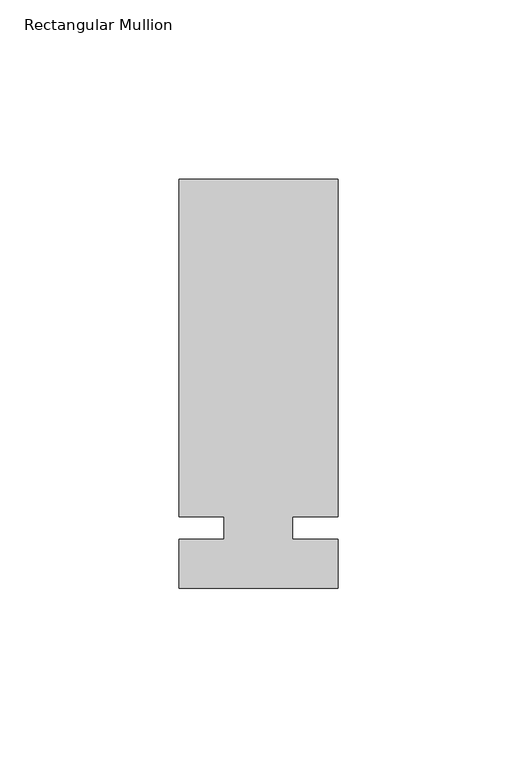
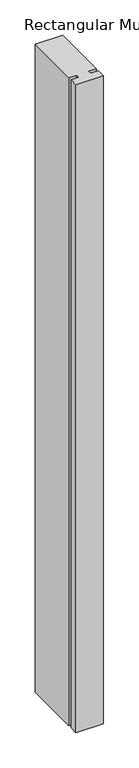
"""IFC4 building model written with IfcOpenShell, lengths in millimetres: member geometry, Rectangular Mullion : Kawneer-TRIFAB_VG_450_BACK_SB_Vertical."""

from ifc_helpers import new_model, si_unit, frame, origin, place, context, project, spatial, polyline, outline, extrude, source, transform, mapped, element, save


def rectangular_mullion_40eadc30(model_context):
    return source(origin(), model_context, "Body", "SweptSolid", [
        extrude(outline(polyline([(22.225, -16.8532346), (-22.225, -16.8532346), (-22.225, -3.175), (-9.525, -3.175), (-9.525, 3.175), (-22.225, 3.175), (-22.225, 97.4467654), (22.225, 97.4467654), (22.225, 3.175), (9.5232296, 3.175), (9.5232296, -3.175), (22.225, -3.175), (22.225, -16.8532346)])), frame((0.0, 0.0, -1116.4405973), z_axis=(0.0, 0.0, 1.0), x_axis=(1.0, 0.0, 0.0)), (0.0, 0.0, 1.0), 1116.4405973),
    ])


if __name__ == "__main__":
    model = new_model("IFC4")
    model_context = context("Model", 3, world=origin())
    ifc_project = project(units=[si_unit("LENGTHUNIT", "METRE", prefix="MILLI")], contexts=[model_context])
    site = spatial("IfcSite", under=ifc_project)
    building = spatial("IfcBuilding", under=site)
    placement = place(None, origin())
    rectangular_mullion_shape = rectangular_mullion_40eadc30(model_context)
    element("IfcMember", 1, ObjectType="Rectangular Mullion : Kawneer-TRIFAB_VG_450_BACK_SB_Vertical", at=placement, inside=building, context=model_context, shape_type="MappedRepresentation", body=[
        mapped(rectangular_mullion_shape, transform((0.0, 0.0, 0.0), x_axis=(1.0, 0.0, 0.0), y_axis=(0.0, 1.0, 0.0), z_axis=(0.0, 0.0, 1.0))),
    ])
    save(model, "model.ifc")
